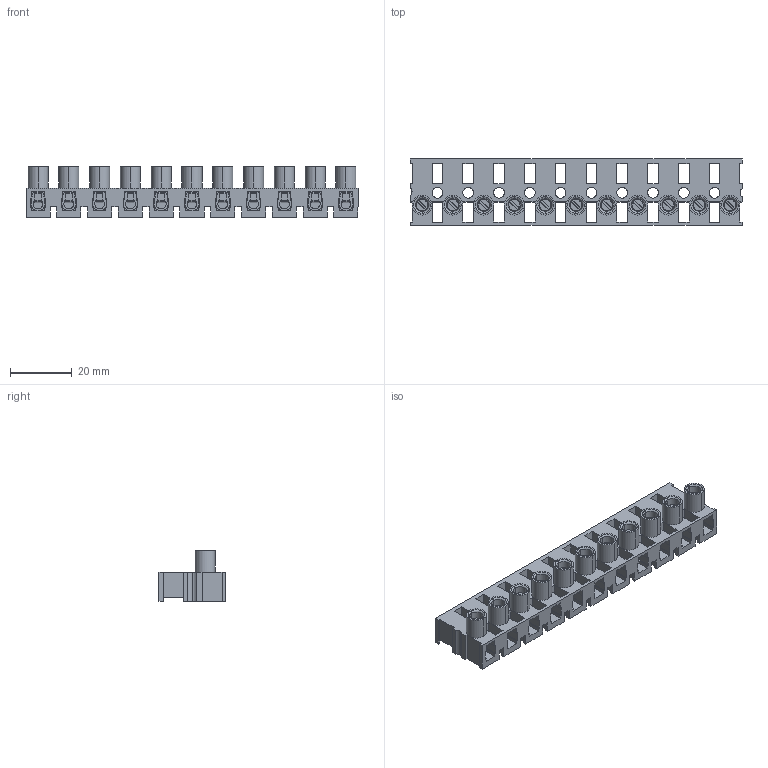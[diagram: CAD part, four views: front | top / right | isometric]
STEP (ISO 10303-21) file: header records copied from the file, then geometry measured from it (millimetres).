
FILE_DESCRIPTION(('CATIA V5 STEP Exchange'),'2;1');
FILE_NAME('C:\Users\mcr\Documents\weco\6_STEPfertig\Katalog_7\Steckverbinderklemmleiste_321-B\321-B-DS_11_41821006.stp','2016-09-23T08:53:00+00:00',('none'),('none'),'CATIA Version 5 Release 20 SP 5 (IN-10)','CATIA V5 STEP AP214','none');
FILE_SCHEMA(('AUTOMOTIVE_DESIGN { 1 0 10303 214 1 1 1 1 }'));
Products named in the file (1): 321-B-DS
Bounding box: 107.8 x 21.5 x 16.5 mm (x, y, z)
Volume: 14117.9 mm3; surface area: 17126.1 mm2
Topology: 1 solids, 1 shells, 1424 faces, 4130 edges, 2734 vertices
Faces by surface type: plane 1104, cylinder 210, torus 66, cone 44
Entity records: 55098 total; most frequent: CARTESIAN_POINT 9453, ORIENTED_EDGE 8260, DIRECTION 6034, EDGE_CURVE 4130, VECTOR 3241, LINE 3241, VERTEX_POINT 2734, AXIS2_PLACEMENT_3D 1757
